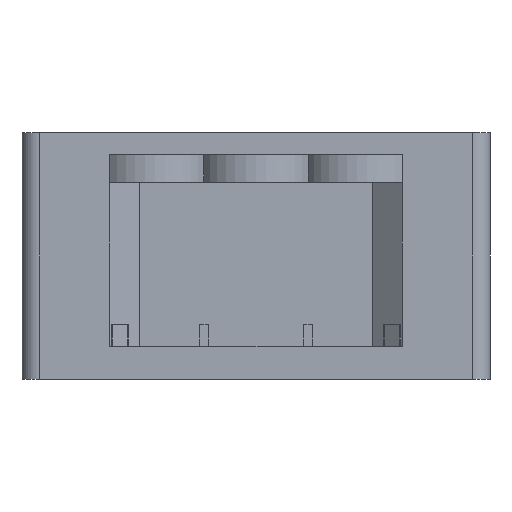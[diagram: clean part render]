
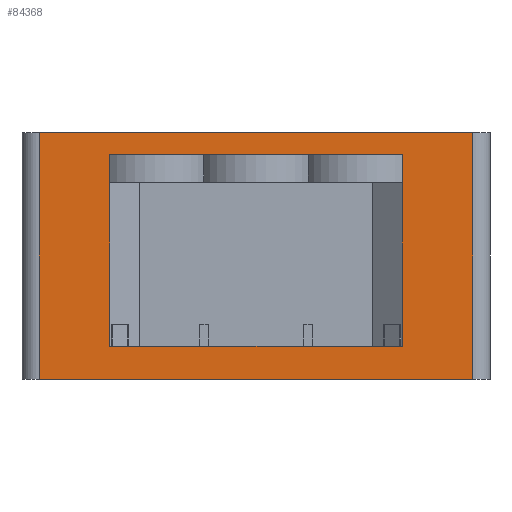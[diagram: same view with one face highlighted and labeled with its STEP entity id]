
A CAD part, left-side view. The second image highlights one B-rep face of the part: STEP entity #84368.
In plain terms, the highlighted planar face has unit normal (-1, 0, 0).
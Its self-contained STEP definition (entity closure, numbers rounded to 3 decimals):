
#32 = PLANE('',#33);
#33 = AXIS2_PLACEMENT_3D('',#34,#35,#36);
#34 = CARTESIAN_POINT('',(0.,0.,0.));
#35 = DIRECTION('',(-0.,-0.,-1.));
#36 = DIRECTION('',(-1.,0.,0.));
#57 = VERTEX_POINT('',#58);
#58 = CARTESIAN_POINT('',(-63.88,-39.56,0.));
#73 = CYLINDRICAL_SURFACE('',#74,3.18);
#74 = AXIS2_PLACEMENT_3D('',#75,#76,#77);
#75 = CARTESIAN_POINT('',(-60.7,-39.56,0.));
#76 = DIRECTION('',(0.,0.,1.));
#77 = DIRECTION('',(0.,-1.,0.));
#85 = EDGE_CURVE('',#57,#86,#88,.T.);
#86 = VERTEX_POINT('',#87);
#87 = CARTESIAN_POINT('',(-63.88,39.56,0.));
#88 = SURFACE_CURVE('',#89,(#93,#100),.PCURVE_S1.);
#89 = LINE('',#90,#91);
#90 = CARTESIAN_POINT('',(-63.88,-39.56,0.));
#91 = VECTOR('',#92,1.);
#92 = DIRECTION('',(0.,1.,0.));
#93 = PCURVE('',#32,#94);
#94 = DEFINITIONAL_REPRESENTATION('',(#95),#99);
#95 = LINE('',#96,#97);
#96 = CARTESIAN_POINT('',(63.88,-39.56));
#97 = VECTOR('',#98,1.);
#98 = DIRECTION('',(0.,1.));
#99 = ( GEOMETRIC_REPRESENTATION_CONTEXT(2) 
PARAMETRIC_REPRESENTATION_CONTEXT() REPRESENTATION_CONTEXT('2D SPACE',''
  ) );
#100 = PCURVE('',#101,#106);
#101 = PLANE('',#102);
#102 = AXIS2_PLACEMENT_3D('',#103,#104,#105);
#103 = CARTESIAN_POINT('',(-63.88,42.74,0.));
#104 = DIRECTION('',(1.,0.,-0.));
#105 = DIRECTION('',(0.,-1.,0.));
#106 = DEFINITIONAL_REPRESENTATION('',(#107),#111);
#107 = LINE('',#108,#109);
#108 = CARTESIAN_POINT('',(82.3,0.));
#109 = VECTOR('',#110,1.);
#110 = DIRECTION('',(-1.,0.));
#111 = ( GEOMETRIC_REPRESENTATION_CONTEXT(2) 
PARAMETRIC_REPRESENTATION_CONTEXT() REPRESENTATION_CONTEXT('2D SPACE',''
  ) );
#134 = CYLINDRICAL_SURFACE('',#135,3.18);
#135 = AXIS2_PLACEMENT_3D('',#136,#137,#138);
#136 = CARTESIAN_POINT('',(-60.7,39.56,0.));
#137 = DIRECTION('',(0.,0.,1.));
#138 = DIRECTION('',(-0.,1.,0.));
#4211 = PLANE('',#4212);
#4212 = AXIS2_PLACEMENT_3D('',#4213,#4214,#4215);
#4213 = CARTESIAN_POINT('',(-63.88,-26.74,0.));
#4214 = DIRECTION('',(-0.,1.,0.));
#4215 = DIRECTION('',(0.,0.,1.));
#9279 = PLANE('',#9280);
#9280 = AXIS2_PLACEMENT_3D('',#9281,#9282,#9283);
#9281 = CARTESIAN_POINT('',(-63.88,26.74,0.));
#9282 = DIRECTION('',(-0.,1.,0.));
#9283 = DIRECTION('',(0.,0.,1.));
#26021 = PLANE('',#26022);
#26022 = AXIS2_PLACEMENT_3D('',#26023,#26024,#26025);
#26023 = CARTESIAN_POINT('',(-63.88,-42.74,45.));
#26024 = DIRECTION('',(0.,0.,1.));
#26025 = DIRECTION('',(1.,0.,-0.));
#26271 = VERTEX_POINT('',#26272);
#26272 = CARTESIAN_POINT('',(-63.88,39.56,45.));
#26294 = EDGE_CURVE('',#26295,#26271,#26297,.T.);
#26295 = VERTEX_POINT('',#26296);
#26296 = CARTESIAN_POINT('',(-63.88,-39.56,45.));
#26297 = SURFACE_CURVE('',#26298,(#26302,#26309),.PCURVE_S1.);
#26298 = LINE('',#26299,#26300);
#26299 = CARTESIAN_POINT('',(-63.88,-39.56,45.));
#26300 = VECTOR('',#26301,1.);
#26301 = DIRECTION('',(0.,1.,0.));
#26302 = PCURVE('',#26021,#26303);
#26303 = DEFINITIONAL_REPRESENTATION('',(#26304),#26308);
#26304 = LINE('',#26305,#26306);
#26305 = CARTESIAN_POINT('',(0.,3.18));
#26306 = VECTOR('',#26307,1.);
#26307 = DIRECTION('',(0.,1.));
#26308 = ( GEOMETRIC_REPRESENTATION_CONTEXT(2) 
PARAMETRIC_REPRESENTATION_CONTEXT() REPRESENTATION_CONTEXT('2D SPACE',''
  ) );
#26309 = PCURVE('',#101,#26310);
#26310 = DEFINITIONAL_REPRESENTATION('',(#26311),#26315);
#26311 = LINE('',#26312,#26313);
#26312 = CARTESIAN_POINT('',(82.3,-45.));
#26313 = VECTOR('',#26314,1.);
#26314 = DIRECTION('',(-1.,0.));
#26315 = ( GEOMETRIC_REPRESENTATION_CONTEXT(2) 
PARAMETRIC_REPRESENTATION_CONTEXT() REPRESENTATION_CONTEXT('2D SPACE',''
  ) );
#53651 = PLANE('',#53652);
#53652 = AXIS2_PLACEMENT_3D('',#53653,#53654,#53655);
#53653 = CARTESIAN_POINT('',(-38.,-31.5,41.));
#53654 = DIRECTION('',(0.,0.,1.));
#53655 = DIRECTION('',(1.,0.,-0.));
#53707 = VERTEX_POINT('',#53708);
#53708 = CARTESIAN_POINT('',(-63.88,-26.74,41.));
#53779 = VERTEX_POINT('',#53780);
#53780 = CARTESIAN_POINT('',(-63.88,26.74,41.));
#53801 = EDGE_CURVE('',#53779,#53707,#53802,.T.);
#53802 = SURFACE_CURVE('',#53803,(#53807,#53814),.PCURVE_S1.);
#53803 = LINE('',#53804,#53805);
#53804 = CARTESIAN_POINT('',(-63.88,26.74,41.));
#53805 = VECTOR('',#53806,1.);
#53806 = DIRECTION('',(0.,-1.,0.));
#53807 = PCURVE('',#53651,#53808);
#53808 = DEFINITIONAL_REPRESENTATION('',(#53809),#53813);
#53809 = LINE('',#53810,#53811);
#53810 = CARTESIAN_POINT('',(-25.88,58.24));
#53811 = VECTOR('',#53812,1.);
#53812 = DIRECTION('',(0.,-1.));
#53813 = ( GEOMETRIC_REPRESENTATION_CONTEXT(2) 
PARAMETRIC_REPRESENTATION_CONTEXT() REPRESENTATION_CONTEXT('2D SPACE',''
  ) );
#53814 = PCURVE('',#101,#53815);
#53815 = DEFINITIONAL_REPRESENTATION('',(#53816),#53820);
#53816 = LINE('',#53817,#53818);
#53817 = CARTESIAN_POINT('',(16.,-41.));
#53818 = VECTOR('',#53819,1.);
#53819 = DIRECTION('',(1.,0.));
#53820 = ( GEOMETRIC_REPRESENTATION_CONTEXT(2) 
PARAMETRIC_REPRESENTATION_CONTEXT() REPRESENTATION_CONTEXT('2D SPACE',''
  ) );
#57143 = PLANE('',#57144);
#57144 = AXIS2_PLACEMENT_3D('',#57145,#57146,#57147);
#57145 = CARTESIAN_POINT('',(-52.5,-33.,6.));
#57146 = DIRECTION('',(0.,0.,1.));
#57147 = DIRECTION('',(1.,0.,-0.));
#58436 = VERTEX_POINT('',#58437);
#58437 = CARTESIAN_POINT('',(-63.88,26.74,6.));
#58458 = EDGE_CURVE('',#58436,#58459,#58461,.T.);
#58459 = VERTEX_POINT('',#58460);
#58460 = CARTESIAN_POINT('',(-63.88,-26.74,6.));
#58461 = SURFACE_CURVE('',#58462,(#58466,#58473),.PCURVE_S1.);
#58462 = LINE('',#58463,#58464);
#58463 = CARTESIAN_POINT('',(-63.88,26.74,6.));
#58464 = VECTOR('',#58465,1.);
#58465 = DIRECTION('',(0.,-1.,0.));
#58466 = PCURVE('',#57143,#58467);
#58467 = DEFINITIONAL_REPRESENTATION('',(#58468),#58472);
#58468 = LINE('',#58469,#58470);
#58469 = CARTESIAN_POINT('',(-11.38,59.74));
#58470 = VECTOR('',#58471,1.);
#58471 = DIRECTION('',(0.,-1.));
#58472 = ( GEOMETRIC_REPRESENTATION_CONTEXT(2) 
PARAMETRIC_REPRESENTATION_CONTEXT() REPRESENTATION_CONTEXT('2D SPACE',''
  ) );
#58473 = PCURVE('',#101,#58474);
#58474 = DEFINITIONAL_REPRESENTATION('',(#58475),#58479);
#58475 = LINE('',#58476,#58477);
#58476 = CARTESIAN_POINT('',(16.,-6.));
#58477 = VECTOR('',#58478,1.);
#58478 = DIRECTION('',(1.,0.));
#58479 = ( GEOMETRIC_REPRESENTATION_CONTEXT(2) 
PARAMETRIC_REPRESENTATION_CONTEXT() REPRESENTATION_CONTEXT('2D SPACE',''
  ) );
#66320 = EDGE_CURVE('',#58436,#53779,#66321,.T.);
#66321 = SURFACE_CURVE('',#66322,(#66326,#66333),.PCURVE_S1.);
#66322 = LINE('',#66323,#66324);
#66323 = CARTESIAN_POINT('',(-63.88,26.74,0.));
#66324 = VECTOR('',#66325,1.);
#66325 = DIRECTION('',(0.,0.,1.));
#66326 = PCURVE('',#9279,#66327);
#66327 = DEFINITIONAL_REPRESENTATION('',(#66328),#66332);
#66328 = LINE('',#66329,#66330);
#66329 = CARTESIAN_POINT('',(0.,0.));
#66330 = VECTOR('',#66331,1.);
#66331 = DIRECTION('',(1.,0.));
#66332 = ( GEOMETRIC_REPRESENTATION_CONTEXT(2) 
PARAMETRIC_REPRESENTATION_CONTEXT() REPRESENTATION_CONTEXT('2D SPACE',''
  ) );
#66333 = PCURVE('',#101,#66334);
#66334 = DEFINITIONAL_REPRESENTATION('',(#66335),#66339);
#66335 = LINE('',#66336,#66337);
#66336 = CARTESIAN_POINT('',(16.,0.));
#66337 = VECTOR('',#66338,1.);
#66338 = DIRECTION('',(0.,-1.));
#66339 = ( GEOMETRIC_REPRESENTATION_CONTEXT(2) 
PARAMETRIC_REPRESENTATION_CONTEXT() REPRESENTATION_CONTEXT('2D SPACE',''
  ) );
#80378 = EDGE_CURVE('',#58459,#53707,#80379,.T.);
#80379 = SURFACE_CURVE('',#80380,(#80384,#80391),.PCURVE_S1.);
#80380 = LINE('',#80381,#80382);
#80381 = CARTESIAN_POINT('',(-63.88,-26.74,0.));
#80382 = VECTOR('',#80383,1.);
#80383 = DIRECTION('',(0.,0.,1.));
#80384 = PCURVE('',#4211,#80385);
#80385 = DEFINITIONAL_REPRESENTATION('',(#80386),#80390);
#80386 = LINE('',#80387,#80388);
#80387 = CARTESIAN_POINT('',(0.,0.));
#80388 = VECTOR('',#80389,1.);
#80389 = DIRECTION('',(1.,0.));
#80390 = ( GEOMETRIC_REPRESENTATION_CONTEXT(2) 
PARAMETRIC_REPRESENTATION_CONTEXT() REPRESENTATION_CONTEXT('2D SPACE',''
  ) );
#80391 = PCURVE('',#101,#80392);
#80392 = DEFINITIONAL_REPRESENTATION('',(#80393),#80397);
#80393 = LINE('',#80394,#80395);
#80394 = CARTESIAN_POINT('',(69.48,0.));
#80395 = VECTOR('',#80396,1.);
#80396 = DIRECTION('',(0.,-1.));
#80397 = ( GEOMETRIC_REPRESENTATION_CONTEXT(2) 
PARAMETRIC_REPRESENTATION_CONTEXT() REPRESENTATION_CONTEXT('2D SPACE',''
  ) );
#84346 = EDGE_CURVE('',#26271,#86,#84347,.T.);
#84347 = SURFACE_CURVE('',#84348,(#84352,#84359),.PCURVE_S1.);
#84348 = LINE('',#84349,#84350);
#84349 = CARTESIAN_POINT('',(-63.88,39.56,45.));
#84350 = VECTOR('',#84351,1.);
#84351 = DIRECTION('',(0.,0.,-1.));
#84352 = PCURVE('',#134,#84353);
#84353 = DEFINITIONAL_REPRESENTATION('',(#84354),#84358);
#84354 = LINE('',#84355,#84356);
#84355 = CARTESIAN_POINT('',(1.571,45.));
#84356 = VECTOR('',#84357,1.);
#84357 = DIRECTION('',(0.,-1.));
#84358 = ( GEOMETRIC_REPRESENTATION_CONTEXT(2) 
PARAMETRIC_REPRESENTATION_CONTEXT() REPRESENTATION_CONTEXT('2D SPACE',''
  ) );
#84359 = PCURVE('',#101,#84360);
#84360 = DEFINITIONAL_REPRESENTATION('',(#84361),#84365);
#84361 = LINE('',#84362,#84363);
#84362 = CARTESIAN_POINT('',(3.18,-45.));
#84363 = VECTOR('',#84364,1.);
#84364 = DIRECTION('',(0.,1.));
#84365 = ( GEOMETRIC_REPRESENTATION_CONTEXT(2) 
PARAMETRIC_REPRESENTATION_CONTEXT() REPRESENTATION_CONTEXT('2D SPACE',''
  ) );
#84368 = ADVANCED_FACE('',(#84369,#84395),#101,.F.);
#84369 = FACE_BOUND('',#84370,.F.);
#84370 = EDGE_LOOP('',(#84371,#84392,#84393,#84394));
#84371 = ORIENTED_EDGE('',*,*,#84372,.T.);
#84372 = EDGE_CURVE('',#26295,#57,#84373,.T.);
#84373 = SURFACE_CURVE('',#84374,(#84378,#84385),.PCURVE_S1.);
#84374 = LINE('',#84375,#84376);
#84375 = CARTESIAN_POINT('',(-63.88,-39.56,45.));
#84376 = VECTOR('',#84377,1.);
#84377 = DIRECTION('',(0.,0.,-1.));
#84378 = PCURVE('',#101,#84379);
#84379 = DEFINITIONAL_REPRESENTATION('',(#84380),#84384);
#84380 = LINE('',#84381,#84382);
#84381 = CARTESIAN_POINT('',(82.3,-45.));
#84382 = VECTOR('',#84383,1.);
#84383 = DIRECTION('',(0.,1.));
#84384 = ( GEOMETRIC_REPRESENTATION_CONTEXT(2) 
PARAMETRIC_REPRESENTATION_CONTEXT() REPRESENTATION_CONTEXT('2D SPACE',''
  ) );
#84385 = PCURVE('',#73,#84386);
#84386 = DEFINITIONAL_REPRESENTATION('',(#84387),#84391);
#84387 = LINE('',#84388,#84389);
#84388 = CARTESIAN_POINT('',(4.712,45.));
#84389 = VECTOR('',#84390,1.);
#84390 = DIRECTION('',(0.,-1.));
#84391 = ( GEOMETRIC_REPRESENTATION_CONTEXT(2) 
PARAMETRIC_REPRESENTATION_CONTEXT() REPRESENTATION_CONTEXT('2D SPACE',''
  ) );
#84392 = ORIENTED_EDGE('',*,*,#85,.T.);
#84393 = ORIENTED_EDGE('',*,*,#84346,.F.);
#84394 = ORIENTED_EDGE('',*,*,#26294,.F.);
#84395 = FACE_BOUND('',#84396,.F.);
#84396 = EDGE_LOOP('',(#84397,#84398,#84399,#84400));
#84397 = ORIENTED_EDGE('',*,*,#80378,.T.);
#84398 = ORIENTED_EDGE('',*,*,#53801,.F.);
#84399 = ORIENTED_EDGE('',*,*,#66320,.F.);
#84400 = ORIENTED_EDGE('',*,*,#58458,.T.);
